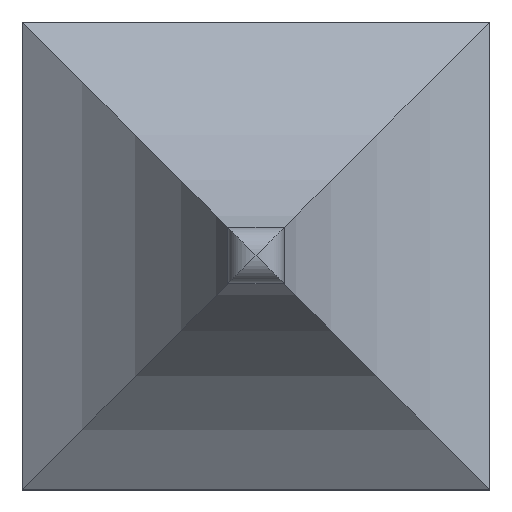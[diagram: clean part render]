
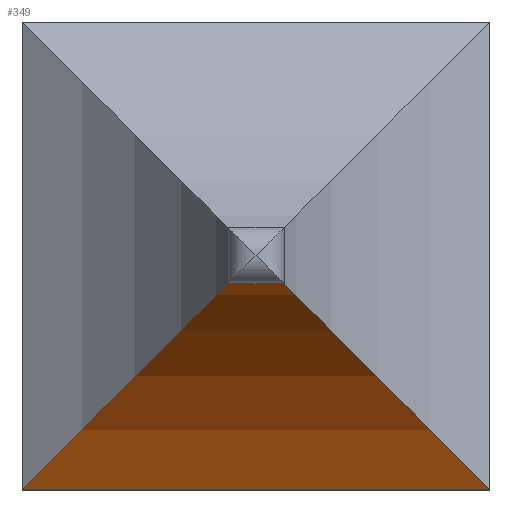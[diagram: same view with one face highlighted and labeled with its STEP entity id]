
A CAD part, top view. The second image highlights one B-rep face of the part: STEP entity #349.
In plain terms, the highlighted cylindrical face has radius 101.418 mm (diameter 202.836 mm), a partial arc.
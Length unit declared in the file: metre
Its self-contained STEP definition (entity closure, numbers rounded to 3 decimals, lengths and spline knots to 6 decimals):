
#30=LINE('',#555,#62);
#31=LINE('',#561,#63);
#62=VECTOR('',#441,1.);
#63=VECTOR('',#448,1.);
#100=ORIENTED_EDGE('',*,*,#195,.F.);
#101=ORIENTED_EDGE('',*,*,#194,.T.);
#102=ORIENTED_EDGE('',*,*,#196,.T.);
#103=ORIENTED_EDGE('',*,*,#197,.F.);
#194=EDGE_CURVE('',#240,#241,#30,.T.);
#195=EDGE_CURVE('',#240,#242,#267,.T.);
#196=EDGE_CURVE('',#241,#243,#268,.T.);
#197=EDGE_CURVE('',#242,#243,#31,.T.);
#240=VERTEX_POINT('',#552);
#241=VERTEX_POINT('',#554);
#242=VERTEX_POINT('',#558);
#243=VERTEX_POINT('',#560);
#267=ELLIPSE('',#392,0.143427,0.101418);
#268=ELLIPSE('',#393,0.143427,0.101418);
#281=EDGE_LOOP('',(#100,#101,#102,#103));
#307=FACE_BOUND('',#281,.T.);
#333=CYLINDRICAL_SURFACE('',#391,0.101418);
#349=ADVANCED_FACE('',(#307),#333,.F.);
#391=AXIS2_PLACEMENT_3D('',#556,#442,#443);
#392=AXIS2_PLACEMENT_3D('',#557,#444,#445);
#393=AXIS2_PLACEMENT_3D('',#559,#446,#447);
#441=DIRECTION('',(-1.,0.,0.));
#442=DIRECTION('',(-1.,0.,0.));
#443=DIRECTION('',(0.,0.,1.));
#444=DIRECTION('',(-0.707,-0.707,0.));
#445=DIRECTION('',(-0.707,0.707,0.));
#446=DIRECTION('',(-0.707,0.707,0.));
#447=DIRECTION('',(-0.707,-0.707,0.));
#448=DIRECTION('',(-1.,0.,0.));
#552=CARTESIAN_POINT('',(0.002442,-0.002442,0.052697));
#554=CARTESIAN_POINT('',(-0.002442,-0.002442,0.052697));
#555=CARTESIAN_POINT('',(0.05,-0.002442,0.052697));
#556=CARTESIAN_POINT('',(0.05,-0.096751,0.09));
#557=CARTESIAN_POINT('',(0.096751,-0.096751,0.09));
#558=CARTESIAN_POINT('',(0.05,-0.05,0.));
#559=CARTESIAN_POINT('',(-0.096751,-0.096751,0.09));
#560=CARTESIAN_POINT('',(-0.05,-0.05,0.));
#561=CARTESIAN_POINT('',(0.05,-0.05,0.));
